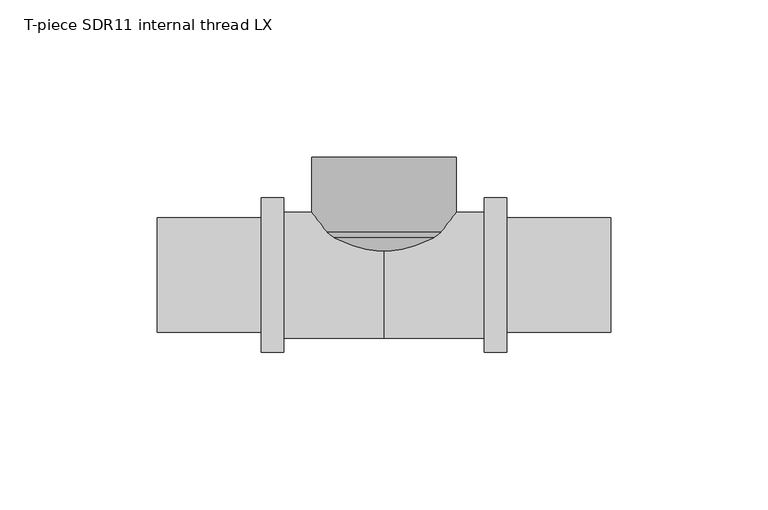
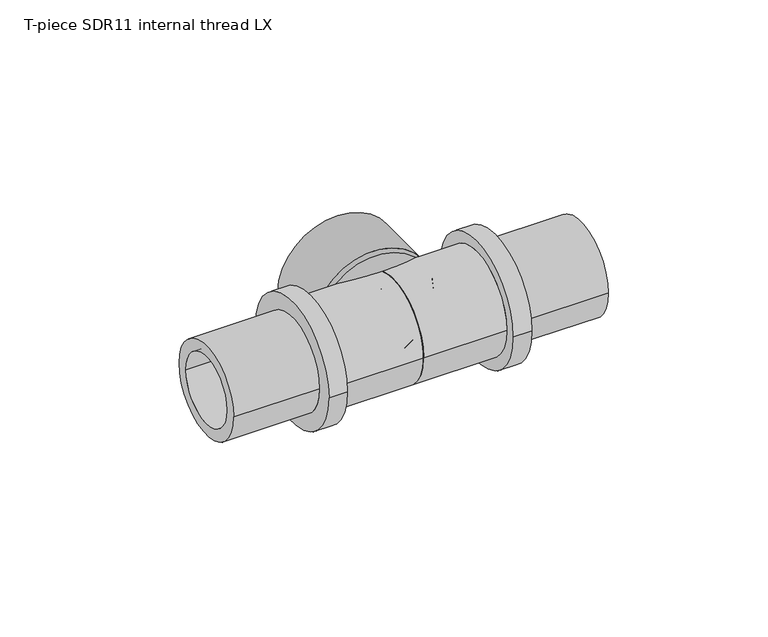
"""IFC4 building model written with IfcOpenShell, lengths in millimetres: pipe fitting geometry, T-piece SDR11 internal thread LX : T-piece LX SDR11 internal LX."""

from ifc_helpers import new_model, si_unit, point, frame, origin, place, context, project, spatial, polyline, circle_curve, ellipse_curve, trimmed, source, transform, mapped, element, save
from ifc_brep_helpers import plane_surface, cylinder_surface, revolved_surface, advanced_brep


def t_piece_sdr11_internal_thread_lx_c3680e9d(model_context):
    return source(origin(), model_context, "Body", "AdvancedBrep", [
        advanced_brep(
        [(16.0, 15.5, 0.0), (-16.0, 15.5, 0.0), (-16.0, 37.4, 0.0), (16.0, 37.4, 0.0), (0.5, 0.0, 0.0), (-0.5, 0.0, 0.0), (22.2683856, 11.8688907, 0.0), (-22.2683856, 11.8688907, 0.0), (-10.3994949, 0.0, 0.0), (10.3994949, 0.0, 0.0), (23.0, 13.6351641, 0.0), (-23.0, 13.6351641, 0.0), (23.0, 37.4, 0.0), (-23.0, 37.4, 0.0)],
        [
            (0, 1, circle_curve(frame((0.0, 15.5, 0.0), z_axis=(0.0, -1.0, 0.0), x_axis=(-1.0, 0.0, 0.0)), 16.0)),
            (1, 2),
            (2, 3, circle_curve(frame((0.0, 37.4, 0.0), z_axis=(0.0, 1.0, 0.0), x_axis=(-1.0, 0.0, 0.0)), 16.0)),
            (3, 0),
            (4, 5, circle_curve(frame((0.0, 0.0, 0.0), z_axis=(0.0, -1.0, 0.0), x_axis=(-1.0, 0.0, 0.0)), 0.5)),
            (5, 1),
            (0, 4),
            (6, 7, circle_curve(frame((0.0, 11.8688907, 0.0), z_axis=(0.0, -1.0, 0.0), x_axis=(-1.0, 0.0, 0.0)), 22.2683856)),
            (7, 8),
            (8, 9, circle_curve(frame((0.0, 0.0, 0.0), z_axis=(0.0, 1.0, 0.0), x_axis=(-1.0, 0.0, 0.0)), 10.3994949)),
            (9, 6),
            (10, 11, circle_curve(frame((0.0, 13.6351641, 0.0), z_axis=(0.0, -1.0, 0.0), x_axis=(-1.0, 0.0, 0.0)), 23.0)),
            (11, 7, circle_curve(frame((-16.0, 15.5, 0.0), z_axis=(0.0, 0.0, 1.0), x_axis=(0.0, 1.0, 0.0)), 7.2441434)),
            (6, 10, circle_curve(frame((16.0, 15.5, 0.0), z_axis=(0.0, 0.0, 1.0), x_axis=(0.0, 1.0, 0.0)), 7.2441434)),
            (12, 13, circle_curve(frame((0.0, 37.4, 0.0), z_axis=(0.0, -1.0, 0.0), x_axis=(-1.0, 0.0, 0.0)), 23.0)),
            (13, 11),
            (10, 12),
            (12, 13, circle_curve(frame((0.0, 37.4, 0.0), z_axis=(0.0, 1.0, 0.0), x_axis=(1.0, 0.0, 0.0)), 23.0)),
            (2, 3, circle_curve(frame((0.0, 37.4, 0.0), z_axis=(0.0, -1.0, 0.0), x_axis=(1.0, 0.0, 0.0)), 16.0)),
            (1, 0, circle_curve(frame((0.0, 15.5, 0.0), z_axis=(0.0, -1.0, 0.0), x_axis=(1.0, 0.0, 0.0)), 16.0)),
            (5, 4, circle_curve(frame((0.0, 0.0, 0.0), z_axis=(0.0, -1.0, 0.0), x_axis=(1.0, 0.0, 0.0)), 0.5)),
            (8, 9, circle_curve(frame((0.0, 0.0, 0.0), z_axis=(0.0, -1.0, 0.0), x_axis=(1.0, 0.0, 0.0)), 10.3994949)),
            (7, 6, circle_curve(frame((0.0, 11.8688907, 0.0), z_axis=(0.0, -1.0, 0.0), x_axis=(1.0, 0.0, 0.0)), 22.2683856)),
            (11, 10, circle_curve(frame((0.0, 13.6351641, 0.0), z_axis=(0.0, -1.0, 0.0), x_axis=(1.0, 0.0, 0.0)), 23.0)),
        ],
        [
            revolved_surface(polyline([(-16.0, 37.4, 0.0), (-16.0, 15.5, 0.0)]), (0.0, 0.0, 0.0), (0.0, 1.0, 0.0)),
            revolved_surface(polyline([(-16.0, 15.5, 0.0), (-0.5, 0.0, 0.0)]), (0.0, 0.0, 0.0), (0.0, 1.0, 0.0)),
            revolved_surface(polyline([(-10.3994949, 0.0, 0.0), (-22.2683856, 11.8688907, 0.0)]), (0.0, 0.0, 0.0), (0.0, 1.0, 0.0)),
            revolved_surface(trimmed(ellipse_curve(frame((-16.0, 15.5, 0.0), z_axis=(0.0, 0.0, -1.0), x_axis=(0.0, 1.0, 0.0)), 7.2441434, 7.2441434), [point((-22.2683856, 11.8688907, 0.0))], [point((-23.0, 13.6351641, 0.0))], True, "CARTESIAN"), (0.0, 0.0, 0.0), (0.0, 1.0, 0.0)),
            cylinder_surface(frame((0.0, 0.0, 0.0), z_axis=(0.0, 1.0, 0.0), x_axis=(-1.0, 0.0, 0.0)), 23.0),
            plane_surface(frame((0.0, 37.4, 0.0), z_axis=(0.0, 1.0, 0.0), x_axis=(1.0, 0.0, 0.0))),
            revolved_surface(polyline([(16.0, 37.4, 0.0), (16.0, 15.5, 0.0)]), (0.0, 0.0, 0.0), (0.0, 1.0, 0.0)),
            revolved_surface(polyline([(16.0, 15.5, 0.0), (0.5, 0.0, 0.0)]), (0.0, 0.0, 0.0), (0.0, 1.0, 0.0)),
            plane_surface(frame((0.0, 0.0, 0.0), z_axis=(0.0, -1.0, 0.0), x_axis=(1.0, 0.0, 0.0))),
            revolved_surface(polyline([(10.3994949, 0.0, 0.0), (22.2683856, 11.8688907, 0.0)]), (0.0, 0.0, 0.0), (0.0, 1.0, 0.0)),
            revolved_surface(trimmed(ellipse_curve(frame((16.0, 15.5, 0.0), z_axis=(0.0, 0.0, 1.0), x_axis=(0.0, 1.0, 0.0)), 7.2441434, 7.2441434), [point((22.2683856, 11.8688907, 0.0))], [point((23.0, 13.6351641, 0.0))], True, "CARTESIAN"), (0.0, 0.0, 0.0), (0.0, 1.0, 0.0)),
            cylinder_surface(frame((0.0, 0.0, 0.0), z_axis=(0.0, 1.0, 0.0), x_axis=(1.0, 0.0, 0.0)), 23.0),
        ],
        [
            (0, [[1, 2, 3, 4]]),
            (1, [[5, 6, -1, 7]]),
            (2, [[8, 9, 10, 11]]),
            (3, [[12, 13, -8, 14]]),
            (4, [[15, 16, -12, 17]]),
            (5, [[18, -15], [19, -3]]),
            (6, [[20, -4, -19, -2]]),
            (7, [[21, -7, -20, -6]]),
            (8, [[22, -10], [-21, -5]]),
            (9, [[23, -11, -22, -9]]),
            (10, [[24, -14, -23, -13]]),
            (11, [[-18, -17, -24, -16]]),
        ],
    ),
        advanced_brep(
        [(39.0, 24.5, 0.0), (39.0, -24.5, 0.0), (31.9, -24.5, 0.0), (31.9, 24.5, 0.0), (72.0, 18.15, 0.0), (72.0, -18.15, 0.0), (39.0, -18.15, 0.0), (39.0, 18.15, 0.0), (0.0, 13.6, 0.0), (0.0, -13.6, 0.0), (72.0, -13.6, 0.0), (72.0, 13.6, 0.0), (31.9, 20.0, 0.0), (31.9, -20.0, 0.0), (0.0, -20.0, 0.0), (0.0, 20.0, 0.0)],
        [
            (0, 1, circle_curve(frame((39.0, 0.0, 0.0), z_axis=(-1.0, 0.0, 0.0), x_axis=(0.0, -1.0, 0.0)), 24.5)),
            (1, 2),
            (2, 3, circle_curve(frame((31.9, 0.0, 0.0), z_axis=(1.0, 0.0, 0.0), x_axis=(0.0, -1.0, 0.0)), 24.5)),
            (3, 0),
            (4, 5, circle_curve(frame((72.0, 0.0, 0.0), z_axis=(-1.0, 0.0, 0.0), x_axis=(0.0, -1.0, 0.0)), 18.15)),
            (5, 6),
            (6, 7, circle_curve(frame((39.0, 0.0, 0.0), z_axis=(1.0, 0.0, 0.0), x_axis=(0.0, -1.0, 0.0)), 18.15)),
            (7, 4),
            (8, 9, circle_curve(frame((0.0, 0.0, 0.0), z_axis=(-1.0, 0.0, 0.0), x_axis=(0.0, -1.0, 0.0)), 13.6)),
            (9, 10),
            (10, 11, circle_curve(frame((72.0, 0.0, 0.0), z_axis=(1.0, 0.0, 0.0), x_axis=(0.0, -1.0, 0.0)), 13.6)),
            (11, 8),
            (12, 13, circle_curve(frame((31.9, 0.0, 0.0), z_axis=(-1.0, 0.0, 0.0), x_axis=(0.0, -1.0, 0.0)), 20.0)),
            (13, 14),
            (14, 15, circle_curve(frame((0.0, 0.0, 0.0), z_axis=(1.0, 0.0, 0.0), x_axis=(0.0, -1.0, 0.0)), 20.0)),
            (15, 12),
            (1, 0, circle_curve(frame((39.0, 0.0, 0.0), z_axis=(-1.0, 0.0, 0.0), x_axis=(0.0, 1.0, 0.0)), 24.5)),
            (3, 2, circle_curve(frame((31.9, 0.0, 0.0), z_axis=(1.0, 0.0, 0.0), x_axis=(0.0, 1.0, 0.0)), 24.5)),
            (6, 7, circle_curve(frame((39.0, 0.0, 0.0), z_axis=(-1.0, 0.0, 0.0), x_axis=(0.0, 1.0, 0.0)), 18.15)),
            (5, 4, circle_curve(frame((72.0, 0.0, 0.0), z_axis=(-1.0, 0.0, 0.0), x_axis=(0.0, 1.0, 0.0)), 18.15)),
            (10, 11, circle_curve(frame((72.0, 0.0, 0.0), z_axis=(-1.0, 0.0, 0.0), x_axis=(0.0, 1.0, 0.0)), 13.6)),
            (9, 8, circle_curve(frame((0.0, 0.0, 0.0), z_axis=(-1.0, 0.0, 0.0), x_axis=(0.0, 1.0, 0.0)), 13.6)),
            (14, 15, circle_curve(frame((0.0, 0.0, 0.0), z_axis=(-1.0, 0.0, 0.0), x_axis=(0.0, 1.0, 0.0)), 20.0)),
            (13, 12, circle_curve(frame((31.9, 0.0, 0.0), z_axis=(-1.0, 0.0, 0.0), x_axis=(0.0, 1.0, 0.0)), 20.0)),
        ],
        [
            cylinder_surface(frame((0.0, 0.0, 0.0), z_axis=(1.0, 0.0, 0.0), x_axis=(0.0, -1.0, 0.0)), 24.5),
            cylinder_surface(frame((0.0, 0.0, 0.0), z_axis=(1.0, 0.0, 0.0), x_axis=(0.0, -1.0, 0.0)), 18.15),
            revolved_surface(polyline([(72.0, -13.6, 0.0), (0.0, -13.6, 0.0)]), (0.0, 0.0, 0.0), (1.0, 0.0, 0.0)),
            cylinder_surface(frame((0.0, 0.0, 0.0), z_axis=(1.0, 0.0, 0.0), x_axis=(0.0, -1.0, 0.0)), 20.0),
            cylinder_surface(frame((0.0, 0.0, 0.0), z_axis=(1.0, 0.0, 0.0), x_axis=(0.0, 1.0, 0.0)), 24.5),
            plane_surface(frame((39.0, 0.0, 0.0), z_axis=(1.0, 0.0, 0.0), x_axis=(0.0, 1.0, 0.0))),
            cylinder_surface(frame((0.0, 0.0, 0.0), z_axis=(1.0, 0.0, 0.0), x_axis=(0.0, 1.0, 0.0)), 18.15),
            plane_surface(frame((72.0, 0.0, 0.0), z_axis=(1.0, 0.0, 0.0), x_axis=(0.0, 1.0, 0.0))),
            revolved_surface(polyline([(72.0, 13.6, 0.0), (0.0, 13.6, 0.0)]), (0.0, 0.0, 0.0), (1.0, 0.0, 0.0)),
            plane_surface(frame((0.0, 0.0, 0.0), z_axis=(-1.0, 0.0, 0.0), x_axis=(0.0, 1.0, 0.0))),
            cylinder_surface(frame((0.0, 0.0, 0.0), z_axis=(1.0, 0.0, 0.0), x_axis=(0.0, 1.0, 0.0)), 20.0),
            plane_surface(frame((31.9, 0.0, 0.0), z_axis=(-1.0, 0.0, 0.0), x_axis=(0.0, 1.0, 0.0))),
        ],
        [
            (0, [[1, 2, 3, 4]]),
            (1, [[5, 6, 7, 8]]),
            (2, [[9, 10, 11, 12]]),
            (3, [[13, 14, 15, 16]]),
            (4, [[17, -4, 18, -2]]),
            (5, [[-17, -1], [19, -7]]),
            (6, [[20, -8, -19, -6]]),
            (7, [[-20, -5], [21, -11]]),
            (8, [[22, -12, -21, -10]]),
            (9, [[23, -15], [-22, -9]]),
            (10, [[24, -16, -23, -14]]),
            (11, [[-18, -3], [-24, -13]]),
        ],
    ),
        advanced_brep(
        [(0.0, 20.0, 0.0), (0.0, -20.0, 0.0), (-31.9, -20.0, 0.0), (-31.9, 20.0, 0.0), (-72.0, 13.6, 0.0), (-72.0, -13.6, 0.0), (0.0, -13.6, 0.0), (0.0, 13.6, 0.0), (-39.0, 18.15, 0.0), (-39.0, -18.15, 0.0), (-72.0, -18.15, 0.0), (-72.0, 18.15, 0.0), (-31.9, 24.5, 0.0), (-31.9, -24.5, 0.0), (-39.0, -24.5, 0.0), (-39.0, 24.5, 0.0)],
        [
            (0, 1, circle_curve(frame((0.0, 0.0, 0.0), z_axis=(-1.0, 0.0, 0.0), x_axis=(0.0, -1.0, 0.0)), 20.0)),
            (1, 2),
            (2, 3, circle_curve(frame((-31.9, 0.0, 0.0), z_axis=(1.0, 0.0, 0.0), x_axis=(0.0, -1.0, 0.0)), 20.0)),
            (3, 0),
            (4, 5, circle_curve(frame((-72.0, 0.0, 0.0), z_axis=(-1.0, 0.0, 0.0), x_axis=(0.0, -1.0, 0.0)), 13.6)),
            (5, 6),
            (6, 7, circle_curve(frame((0.0, 0.0, 0.0), z_axis=(1.0, 0.0, 0.0), x_axis=(0.0, -1.0, 0.0)), 13.6)),
            (7, 4),
            (8, 9, circle_curve(frame((-39.0, 0.0, 0.0), z_axis=(-1.0, 0.0, 0.0), x_axis=(0.0, -1.0, 0.0)), 18.15)),
            (9, 10),
            (10, 11, circle_curve(frame((-72.0, 0.0, 0.0), z_axis=(1.0, 0.0, 0.0), x_axis=(0.0, -1.0, 0.0)), 18.15)),
            (11, 8),
            (12, 13, circle_curve(frame((-31.9, 0.0, 0.0), z_axis=(-1.0, 0.0, 0.0), x_axis=(0.0, -1.0, 0.0)), 24.5)),
            (13, 14),
            (14, 15, circle_curve(frame((-39.0, 0.0, 0.0), z_axis=(1.0, 0.0, 0.0), x_axis=(0.0, -1.0, 0.0)), 24.5)),
            (15, 12),
            (12, 13, circle_curve(frame((-31.9, 0.0, 0.0), z_axis=(1.0, 0.0, 0.0), x_axis=(0.0, 1.0, 0.0)), 24.5)),
            (2, 3, circle_curve(frame((-31.9, 0.0, 0.0), z_axis=(-1.0, 0.0, 0.0), x_axis=(0.0, 1.0, 0.0)), 20.0)),
            (1, 0, circle_curve(frame((0.0, 0.0, 0.0), z_axis=(-1.0, 0.0, 0.0), x_axis=(0.0, 1.0, 0.0)), 20.0)),
            (6, 7, circle_curve(frame((0.0, 0.0, 0.0), z_axis=(-1.0, 0.0, 0.0), x_axis=(0.0, 1.0, 0.0)), 13.6)),
            (5, 4, circle_curve(frame((-72.0, 0.0, 0.0), z_axis=(-1.0, 0.0, 0.0), x_axis=(0.0, 1.0, 0.0)), 13.6)),
            (10, 11, circle_curve(frame((-72.0, 0.0, 0.0), z_axis=(-1.0, 0.0, 0.0), x_axis=(0.0, 1.0, 0.0)), 18.15)),
            (9, 8, circle_curve(frame((-39.0, 0.0, 0.0), z_axis=(-1.0, 0.0, 0.0), x_axis=(0.0, 1.0, 0.0)), 18.15)),
            (14, 15, circle_curve(frame((-39.0, 0.0, 0.0), z_axis=(-1.0, 0.0, 0.0), x_axis=(0.0, 1.0, 0.0)), 24.5)),
        ],
        [
            cylinder_surface(frame((0.0, 0.0, 0.0), z_axis=(1.0, 0.0, 0.0), x_axis=(0.0, -1.0, 0.0)), 20.0),
            revolved_surface(polyline([(0.0, -13.6, 0.0), (-72.0, -13.6, 0.0)]), (0.0, 0.0, 0.0), (1.0, 0.0, 0.0)),
            cylinder_surface(frame((0.0, 0.0, 0.0), z_axis=(1.0, 0.0, 0.0), x_axis=(0.0, -1.0, 0.0)), 18.15),
            cylinder_surface(frame((0.0, 0.0, 0.0), z_axis=(1.0, 0.0, 0.0), x_axis=(0.0, -1.0, 0.0)), 24.5),
            plane_surface(frame((-31.9, 0.0, 0.0), z_axis=(1.0, 0.0, 0.0), x_axis=(0.0, 1.0, 0.0))),
            cylinder_surface(frame((0.0, 0.0, 0.0), z_axis=(1.0, 0.0, 0.0), x_axis=(0.0, 1.0, 0.0)), 20.0),
            plane_surface(frame((0.0, 0.0, 0.0), z_axis=(1.0, 0.0, 0.0), x_axis=(0.0, 1.0, 0.0))),
            revolved_surface(polyline([(0.0, 13.6, 0.0), (-72.0, 13.6, 0.0)]), (0.0, 0.0, 0.0), (1.0, 0.0, 0.0)),
            plane_surface(frame((-72.0, 0.0, 0.0), z_axis=(-1.0, 0.0, 0.0), x_axis=(0.0, 1.0, 0.0))),
            cylinder_surface(frame((0.0, 0.0, 0.0), z_axis=(1.0, 0.0, 0.0), x_axis=(0.0, 1.0, 0.0)), 18.15),
            plane_surface(frame((-39.0, 0.0, 0.0), z_axis=(-1.0, 0.0, 0.0), x_axis=(0.0, 1.0, 0.0))),
            cylinder_surface(frame((0.0, 0.0, 0.0), z_axis=(1.0, 0.0, 0.0), x_axis=(0.0, 1.0, 0.0)), 24.5),
        ],
        [
            (0, [[1, 2, 3, 4]]),
            (1, [[5, 6, 7, 8]]),
            (2, [[9, 10, 11, 12]]),
            (3, [[13, 14, 15, 16]]),
            (4, [[17, -13], [18, -3]]),
            (5, [[19, -4, -18, -2]]),
            (6, [[-19, -1], [20, -7]]),
            (7, [[21, -8, -20, -6]]),
            (8, [[22, -11], [-21, -5]]),
            (9, [[23, -12, -22, -10]]),
            (10, [[24, -15], [-23, -9]]),
            (11, [[-17, -16, -24, -14]]),
        ],
    ),
    ])


if __name__ == "__main__":
    model = new_model("IFC4")
    model_context = context("Model", 3, world=origin())
    ifc_project = project(units=[si_unit("LENGTHUNIT", "METRE", prefix="MILLI")], contexts=[model_context])
    site = spatial("IfcSite", under=ifc_project)
    building = spatial("IfcBuilding", under=site)
    placement = place(None, origin())
    t_piece_sdr11_internal_thread_lx_shape = t_piece_sdr11_internal_thread_lx_c3680e9d(model_context)
    element("IfcPipeFitting", 1, ObjectType="T-piece SDR11 internal thread LX : T-piece LX SDR11 internal LX", at=placement, inside=building, context=model_context, shape_type="MappedRepresentation", body=[
        mapped(t_piece_sdr11_internal_thread_lx_shape, transform((0.0, 0.0, 0.0), x_axis=(1.0, 0.0, 0.0), y_axis=(0.0, 1.0, 0.0), z_axis=(0.0, 0.0, 1.0))),
    ])
    save(model, "model.ifc")
